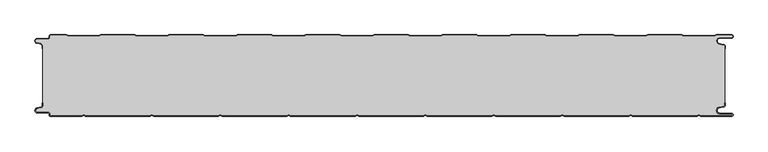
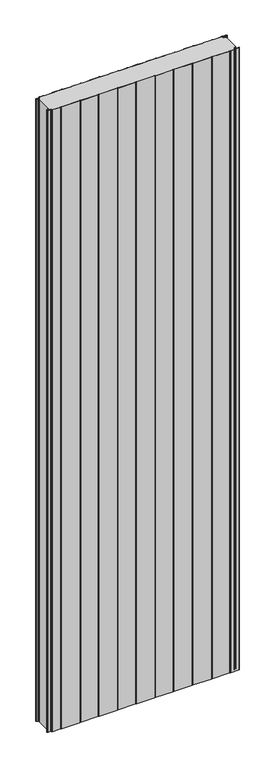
"""IFC4 building model written with IfcOpenShell, lengths in millimetres: plate geometry, PMH_Curtain-Panel_Perfil-Estándar : ACH_PMH_Panel-Acústico-Sectorización_120M."""

from ifc_helpers import new_model, si_unit, point, frame_2d, origin, origin_with_axes, place, context, project, spatial, polyline, circle_curve, trimmed, segment, composite_curve, outline, extrude, source, transform, mapped, element, save


def plate_caacb22a(model_context):
    return source(origin(), model_context, "Body", "SweptSolid", [
        extrude(outline(composite_curve([segment(polyline([(-500.0, 15.878557), (-500.0, 20.0), (-499.2, 20.0), (-499.2, 15.878557)]), True, "CONTINUOUS"), segment(trimmed(circle_curve(frame_2d((-502.0, 15.878557)), 2.8), [point((-499.2, 15.878557))], [point((-501.370137, 13.1503208))], False, "CARTESIAN"), True, "CONTINUOUS"), segment(polyline([(-501.370137, 13.1503208), (-507.529863, 11.728236)]), True, "CONTINUOUS"), segment(trimmed(circle_curve(frame_2d((-506.9, 9.0)), 2.8), [point((-507.529863, 11.728236))], [point((-506.9, 6.2))], True, "CARTESIAN"), True, "CONTINUOUS"), segment(polyline([(-506.9, 6.2), (-491.4, 6.2)]), True, "CONTINUOUS"), segment(trimmed(circle_curve(frame_2d((-491.4, 3.4)), 2.8), [point((-491.4, 6.2))], [point((-488.6, 3.4))], False, "CARTESIAN"), True, "CONTINUOUS"), segment(polyline([(-488.6, 3.4), (-488.6, 2.0)]), True, "CONTINUOUS"), segment(trimmed(circle_curve(frame_2d((-487.4, 2.0)), 1.2), [point((-488.6, 2.0))], [point((-487.4, 0.8))], True, "CARTESIAN"), True, "CONTINUOUS"), segment(polyline([(-487.4, 0.8), (-442.3143588, 0.8), (-439.4, 2.482606), (-436.4856412, 0.8), (-342.3143588, 0.8), (-339.4, 2.482606), (-336.4856412, 0.8), (-242.3143588, 0.8), (-239.4, 2.482606), (-236.4856412, 0.8), (-142.3143588, 0.8), (-139.4, 2.482606), (-136.4856412, 0.8), (-42.3143588, 0.8), (-39.4, 2.482606), (-36.4856412, 0.8), (57.6856412, 0.8), (60.6, 2.482606), (63.5143588, 0.8), (157.6856412, 0.8), (160.6, 2.482606), (163.5143588, 0.8), (257.6856412, 0.8), (260.6, 2.482606), (263.5143588, 0.8), (357.6856412, 0.8), (360.6, 2.482606), (363.5143588, 0.8), (457.6856412, 0.8), (460.6, 2.482606), (463.5143588, 0.8), (508.1, 0.8)]), True, "CONTINUOUS"), segment(trimmed(circle_curve(frame_2d((508.1, 2.5)), 1.7), [point((508.1, 0.8))], [point((508.1, 4.2))], True, "CARTESIAN"), True, "CONTINUOUS"), segment(polyline([(508.1, 4.2), (491.1, 4.2)]), True, "CONTINUOUS"), segment(trimmed(circle_curve(frame_2d((491.1, 9.0)), 4.8), [point((491.1, 4.2))], [point((490.2664884, 13.7270771))], False, "CARTESIAN"), True, "CONTINUOUS"), segment(polyline([(490.2664884, 13.7270771), (496.7125669, 14.8636953)]), True, "CONTINUOUS"), segment(trimmed(circle_curve(frame_2d((496.4, 16.6363492)), 1.8), [point((496.7125669, 14.8636953))], [point((498.2, 16.6363492))], True, "CARTESIAN"), True, "CONTINUOUS"), segment(polyline([(498.2, 16.6363492), (498.2, 20.0), (499.0, 20.0), (499.0, 16.6363492)]), True, "CONTINUOUS"), segment(trimmed(circle_curve(frame_2d((496.4, 16.6363492)), 2.6), [point((499.0, 16.6363492))], [point((496.8514855, 14.0758491))], False, "CARTESIAN"), True, "CONTINUOUS"), segment(polyline([(496.8514855, 14.0758491), (490.405407, 12.939231)]), True, "CONTINUOUS"), segment(trimmed(circle_curve(frame_2d((491.1, 9.0)), 4.0), [point((490.405407, 12.939231))], [point((491.1, 5.0))], True, "CARTESIAN"), True, "CONTINUOUS"), segment(polyline([(491.1, 5.0), (508.1, 5.0)]), True, "CONTINUOUS"), segment(trimmed(circle_curve(frame_2d((508.1, 2.5)), 2.5), [point((508.1, 5.0))], [point((508.1, 0.0))], False, "CARTESIAN"), True, "CONTINUOUS"), segment(polyline([(508.1, 0.0), (463.2999995, 0.0), (460.6, 1.5588455), (457.9000005, 0.0), (363.2999995, 0.0), (360.6, 1.5588455), (357.9000005, 0.0), (263.2999995, 0.0), (260.6, 1.5588455), (257.9000005, 0.0), (163.2999995, 0.0), (160.6, 1.5588455), (157.9000005, 0.0), (63.2999995, 0.0), (60.6, 1.5588455), (57.9000005, 0.0), (-36.7000005, 0.0), (-39.4, 1.5588455), (-42.0999995, 0.0), (-136.7000005, 0.0), (-139.4, 1.5588455), (-142.0999995, 0.0), (-236.7000005, 0.0), (-239.4, 1.5588455), (-242.0999995, 0.0), (-336.7000005, 0.0), (-339.4, 1.5588455), (-342.0999995, 0.0), (-436.7000005, 0.0), (-439.4, 1.5588455), (-442.0999995, 0.0), (-487.4, 0.0)]), True, "CONTINUOUS"), segment(trimmed(circle_curve(frame_2d((-487.4, 2.0)), 2.0), [point((-487.4, 0.0))], [point((-489.4, 2.0))], False, "CARTESIAN"), True, "CONTINUOUS"), segment(polyline([(-489.4, 2.0), (-489.4, 3.4)]), True, "CONTINUOUS"), segment(trimmed(circle_curve(frame_2d((-491.4, 3.4)), 2.0), [point((-489.4, 3.4))], [point((-491.4, 5.4))], True, "CARTESIAN"), True, "CONTINUOUS"), segment(polyline([(-491.4, 5.4), (-506.9, 5.4)]), True, "CONTINUOUS"), segment(trimmed(circle_curve(frame_2d((-506.9, 9.0)), 3.6), [point((-506.9, 5.4))], [point((-507.7098239, 12.5077322))], False, "CARTESIAN"), True, "CONTINUOUS"), segment(polyline([(-507.7098239, 12.5077322), (-501.5500979, 13.929817)]), True, "CONTINUOUS"), segment(trimmed(circle_curve(frame_2d((-502.0, 15.878557)), 2.0), [point((-501.5500979, 13.929817))], [point((-500.0, 15.878557))], True, "CARTESIAN"), True, "CONTINUOUS")], self_intersect=False)), origin_with_axes(), (0.0, 0.0, 1.0), 3500.0),
        extrude(outline(composite_curve([segment(trimmed(circle_curve(frame_2d((-502.0, 104.121443)), 2.8), [point((-499.2, 104.121443))], [point((-501.370137, 106.8496792))], True, "CARTESIAN"), True, "CONTINUOUS"), segment(polyline([(-501.370137, 106.8496792), (-507.529863, 108.271764)]), True, "CONTINUOUS"), segment(trimmed(circle_curve(frame_2d((-506.9, 111.0)), 2.7999998), [point((-507.529863, 108.271764))], [point((-506.9, 113.7999998))], False, "CARTESIAN"), True, "CONTINUOUS"), segment(polyline([(-506.9, 113.7999998), (-491.4, 113.7999998)]), True, "CONTINUOUS"), segment(trimmed(circle_curve(frame_2d((-491.4, 116.5999998)), 2.8), [point((-491.4, 113.7999998))], [point((-488.6, 116.5999998))], True, "CARTESIAN"), True, "CONTINUOUS"), segment(polyline([(-488.6, 116.5999998), (-488.6, 118.0)]), True, "CONTINUOUS"), segment(trimmed(circle_curve(frame_2d((-487.4, 118.0)), 1.2), [point((-488.6, 118.0))], [point((-487.4, 119.2))], False, "CARTESIAN"), True, "CONTINUOUS"), segment(polyline([(-487.4, 119.2), (-464.6143592, 119.2), (-462.0162816, 117.7), (-416.7875654, 117.7), (-414.1894878, 119.2), (-364.6143592, 119.2), (-362.0162816, 117.7), (-316.7875654, 117.7), (-314.1894878, 119.2), (-264.6143592, 119.2), (-262.0162816, 117.7), (-216.7875654, 117.7), (-214.1894878, 119.2), (-164.6143592, 119.2), (-162.0162816, 117.7), (-116.7875654, 117.7), (-114.1894878, 119.2), (-64.6143592, 119.2), (-62.0162816, 117.7), (-16.7875654, 117.7), (-14.1894878, 119.2), (35.3856408, 119.2), (37.9837184, 117.7), (83.2124346, 117.7), (85.8105122, 119.2), (135.3856408, 119.2), (137.9837184, 117.7), (183.2124346, 117.7), (185.8105122, 119.2), (235.3856408, 119.2), (237.9837184, 117.7), (283.2124346, 117.7), (285.8105122, 119.2), (335.3856408, 119.2), (337.9837184, 117.7), (383.2124346, 117.7), (385.8105122, 119.2), (435.3856408, 119.2), (437.9837184, 117.7), (483.2124346, 117.7), (485.8105122, 119.2), (508.1, 119.2)]), True, "CONTINUOUS"), segment(trimmed(circle_curve(frame_2d((508.1, 117.5)), 1.7), [point((508.1, 119.2))], [point((508.1, 115.8000001))], False, "CARTESIAN"), True, "CONTINUOUS"), segment(polyline([(508.1, 115.8000001), (491.1, 115.8000001)]), True, "CONTINUOUS"), segment(trimmed(circle_curve(frame_2d((491.1, 111.0000002)), 4.7999999), [point((491.1, 115.8000001))], [point((490.266489, 106.272923))], True, "CARTESIAN"), True, "CONTINUOUS"), segment(polyline([(490.266489, 106.272923), (496.7125666, 105.1363059)]), True, "CONTINUOUS"), segment(trimmed(circle_curve(frame_2d((496.4, 103.363652)), 1.8), [point((496.7125666, 105.1363059))], [point((498.2, 103.363652))], False, "CARTESIAN"), True, "CONTINUOUS"), segment(polyline([(498.2, 103.363652), (498.2, 16.6363492)]), True, "CONTINUOUS"), segment(trimmed(circle_curve(frame_2d((496.4, 16.6363492)), 1.8), [point((498.2, 16.6363492))], [point((496.7125668, 14.8636953))], False, "CARTESIAN"), True, "CONTINUOUS"), segment(polyline([(496.7125668, 14.8636953), (490.2664883, 13.7270771)]), True, "CONTINUOUS"), segment(trimmed(circle_curve(frame_2d((491.1, 9.0)), 4.8), [point((490.2664883, 13.7270771))], [point((491.1, 4.2))], True, "CARTESIAN"), True, "CONTINUOUS"), segment(polyline([(491.1, 4.2), (508.1, 4.2)]), True, "CONTINUOUS"), segment(trimmed(circle_curve(frame_2d((508.1, 2.5)), 1.7), [point((508.1, 4.2))], [point((508.1, 0.8))], False, "CARTESIAN"), True, "CONTINUOUS"), segment(polyline([(508.1, 0.8), (463.5143587, 0.8), (460.5999999, 2.482606), (457.6856411, 0.8), (363.5143588, 0.8), (360.5999999, 2.482606), (357.6856411, 0.8), (263.5143588, 0.8), (260.5999999, 2.482606), (257.6856411, 0.8), (163.5143588, 0.8), (160.5999999, 2.482606), (157.6856411, 0.8), (63.5143588, 0.8), (60.5999999, 2.482606), (57.6856411, 0.8), (-36.4856412, 0.8), (-39.4000001, 2.482606), (-42.3143589, 0.8), (-136.4856412, 0.8), (-139.4000001, 2.482606), (-142.3143589, 0.8), (-236.4856412, 0.8), (-239.4000001, 2.482606), (-242.3143589, 0.8), (-336.4856412, 0.8), (-339.4000001, 2.482606), (-342.3143589, 0.8), (-436.4856412, 0.8), (-439.4000001, 2.482606), (-442.3143589, 0.8), (-487.4000001, 0.8)]), True, "CONTINUOUS"), segment(trimmed(circle_curve(frame_2d((-487.4000001, 2.0)), 1.2), [point((-487.4000001, 0.8))], [point((-488.6000001, 2.0))], False, "CARTESIAN"), True, "CONTINUOUS"), segment(polyline([(-488.6000001, 2.0), (-488.6000001, 3.4)]), True, "CONTINUOUS"), segment(trimmed(circle_curve(frame_2d((-491.4000001, 3.4)), 2.8), [point((-488.6000001, 3.4))], [point((-491.4000001, 6.2))], True, "CARTESIAN"), True, "CONTINUOUS"), segment(polyline([(-491.4000001, 6.2), (-506.9, 6.2)]), True, "CONTINUOUS"), segment(trimmed(circle_curve(frame_2d((-506.9, 9.0)), 2.8), [point((-506.9, 6.2))], [point((-507.5298631, 11.7282362))], False, "CARTESIAN"), True, "CONTINUOUS"), segment(polyline([(-507.5298631, 11.7282362), (-501.370137, 13.1503212)]), True, "CONTINUOUS"), segment(trimmed(circle_curve(frame_2d((-502.0, 15.8785573)), 2.8), [point((-501.370137, 13.1503212))], [point((-499.2, 15.8785573))], True, "CARTESIAN"), True, "CONTINUOUS"), segment(polyline([(-499.2, 15.8785573), (-499.2, 104.121443)]), True, "CONTINUOUS")], self_intersect=False)), origin_with_axes(), (0.0, 0.0, 1.0), 3500.0),
        extrude(outline(composite_curve([segment(polyline([(-487.4, 120.0), (-464.3999999, 120.0), (-461.8019223, 118.5), (-417.0019247, 118.5), (-414.4038471, 120.0), (-364.3999999, 120.0), (-361.8019223, 118.5), (-317.0019247, 118.5), (-314.4038471, 120.0), (-264.3999999, 120.0), (-261.8019223, 118.5), (-217.0019247, 118.5), (-214.4038471, 120.0), (-164.3999999, 120.0), (-161.8019223, 118.5), (-117.0019247, 118.5), (-114.4038471, 120.0), (-64.3999999, 120.0), (-61.8019223, 118.5), (-17.0019247, 118.5), (-14.4038471, 120.0), (35.6000001, 120.0), (38.1980777, 118.5), (82.9980753, 118.5), (85.5961529, 120.0), (135.6000001, 120.0), (138.1980777, 118.5), (182.9980753, 118.5), (185.5961529, 120.0), (235.6000001, 120.0), (238.1980777, 118.5), (282.9980753, 118.5), (285.5961529, 120.0), (335.6000001, 120.0), (338.1980777, 118.5), (382.9980753, 118.5), (385.5961529, 120.0), (435.6000001, 120.0), (438.1980777, 118.5), (482.9980753, 118.5), (485.5961529, 120.0), (508.1, 120.0)]), True, "CONTINUOUS"), segment(trimmed(circle_curve(frame_2d((508.1, 117.5)), 2.5), [point((508.1, 120.0))], [point((508.1, 115.0))], False, "CARTESIAN"), True, "CONTINUOUS"), segment(polyline([(508.1, 115.0), (491.1, 115.0)]), True, "CONTINUOUS"), segment(trimmed(circle_curve(frame_2d((491.1, 111.0)), 4.0), [point((491.1, 115.0))], [point((490.4054075, 107.060769))], True, "CARTESIAN"), True, "CONTINUOUS"), segment(polyline([(490.4054075, 107.060769), (496.8514851, 105.924152)]), True, "CONTINUOUS"), segment(trimmed(circle_curve(frame_2d((496.4, 103.363652)), 2.6), [point((496.8514851, 105.924152))], [point((499.0, 103.363652))], False, "CARTESIAN"), True, "CONTINUOUS"), segment(polyline([(499.0, 103.363652), (499.0, 100.0), (498.2, 100.0), (498.2, 103.363652)]), True, "CONTINUOUS"), segment(trimmed(circle_curve(frame_2d((496.4, 103.363652)), 1.8), [point((498.2, 103.363652))], [point((496.7125666, 105.136306))], True, "CARTESIAN"), True, "CONTINUOUS"), segment(polyline([(496.7125666, 105.136306), (490.266489, 106.2729229)]), True, "CONTINUOUS"), segment(trimmed(circle_curve(frame_2d((491.1, 111.0)), 4.8), [point((490.266489, 106.2729229))], [point((491.1, 115.8))], False, "CARTESIAN"), True, "CONTINUOUS"), segment(polyline([(491.1, 115.8), (508.1, 115.8)]), True, "CONTINUOUS"), segment(trimmed(circle_curve(frame_2d((508.1, 117.5)), 1.7), [point((508.1, 115.8))], [point((508.1, 119.2))], True, "CARTESIAN"), True, "CONTINUOUS"), segment(polyline([(508.1, 119.2), (485.8105122, 119.2), (483.2124346, 117.7), (437.9837184, 117.7), (435.3856408, 119.2), (385.8105122, 119.2), (383.2124346, 117.7), (337.9837184, 117.7), (335.3856408, 119.2), (285.8105122, 119.2), (283.2124346, 117.7), (237.9837184, 117.7), (235.3856408, 119.2), (185.8105122, 119.2), (183.2124346, 117.7), (137.9837184, 117.7), (135.3856408, 119.2), (85.8105122, 119.2), (83.2124346, 117.7), (37.9837184, 117.7), (35.3856408, 119.2), (-14.1894878, 119.2), (-16.7875654, 117.7), (-62.0162816, 117.7), (-64.6143592, 119.2), (-114.1894878, 119.2), (-116.7875654, 117.7), (-162.0162816, 117.7), (-164.6143592, 119.2), (-214.1894878, 119.2), (-216.7875654, 117.7), (-262.0162816, 117.7), (-264.6143592, 119.2), (-314.1894878, 119.2), (-316.7875654, 117.7), (-362.0162816, 117.7), (-364.6143592, 119.2), (-414.1894878, 119.2), (-416.7875654, 117.7), (-462.0162816, 117.7), (-464.6143592, 119.2), (-487.4, 119.2)]), True, "CONTINUOUS"), segment(trimmed(circle_curve(frame_2d((-487.4, 118.0)), 1.2), [point((-487.4, 119.2))], [point((-488.6, 118.0))], True, "CARTESIAN"), True, "CONTINUOUS"), segment(polyline([(-488.6, 118.0), (-488.6, 116.6)]), True, "CONTINUOUS"), segment(trimmed(circle_curve(frame_2d((-491.4, 116.6)), 2.8), [point((-488.6, 116.6))], [point((-491.4, 113.8))], False, "CARTESIAN"), True, "CONTINUOUS"), segment(polyline([(-491.4, 113.8), (-506.9, 113.8)]), True, "CONTINUOUS"), segment(trimmed(circle_curve(frame_2d((-506.9, 111.0)), 2.8), [point((-506.9, 113.8))], [point((-507.529863, 108.2717638))], True, "CARTESIAN"), True, "CONTINUOUS"), segment(polyline([(-507.529863, 108.2717638), (-501.370137, 106.849679)]), True, "CONTINUOUS"), segment(trimmed(circle_curve(frame_2d((-502.0, 104.121443)), 2.8), [point((-501.370137, 106.849679))], [point((-499.2, 104.121443))], False, "CARTESIAN"), True, "CONTINUOUS"), segment(polyline([(-499.2, 104.121443), (-499.2, 100.0), (-500.0, 100.0), (-500.0, 104.121443)]), True, "CONTINUOUS"), segment(trimmed(circle_curve(frame_2d((-502.0, 104.121443)), 2.0), [point((-500.0, 104.121443))], [point((-501.5500978, 106.0701831))], True, "CARTESIAN"), True, "CONTINUOUS"), segment(polyline([(-501.5500978, 106.0701831), (-507.7098239, 107.492268)]), True, "CONTINUOUS"), segment(trimmed(circle_curve(frame_2d((-506.9, 111.0)), 3.6), [point((-507.7098239, 107.492268))], [point((-506.9, 114.6))], False, "CARTESIAN"), True, "CONTINUOUS"), segment(polyline([(-506.9, 114.6), (-491.4, 114.6)]), True, "CONTINUOUS"), segment(trimmed(circle_curve(frame_2d((-491.4, 116.6)), 2.0), [point((-491.4, 114.6))], [point((-489.4, 116.6))], True, "CARTESIAN"), True, "CONTINUOUS"), segment(polyline([(-489.4, 116.6), (-489.4, 118.0)]), True, "CONTINUOUS"), segment(trimmed(circle_curve(frame_2d((-487.4, 118.0)), 2.0), [point((-489.4, 118.0))], [point((-487.4, 120.0))], False, "CARTESIAN"), True, "CONTINUOUS")], self_intersect=False)), origin_with_axes(), (0.0, 0.0, 1.0), 3500.0),
    ])


if __name__ == "__main__":
    model = new_model("IFC4")
    model_context = context("Model", 3, world=origin())
    ifc_project = project(units=[si_unit("LENGTHUNIT", "METRE", prefix="MILLI")], contexts=[model_context])
    site = spatial("IfcSite", under=ifc_project)
    building = spatial("IfcBuilding", under=site)
    placement = place(None, origin())
    plate_shape = plate_caacb22a(model_context)
    element("IfcPlate", 1, ObjectType="PMH_Curtain-Panel_Perfil-Estándar : ACH_PMH_Panel-Acústico-Sectorización_120M", at=placement, inside=building, context=model_context, shape_type="MappedRepresentation", body=[
        mapped(plate_shape, transform((0.0, 0.0, 0.0), x_axis=(1.0, 0.0, 0.0), y_axis=(0.0, 1.0, 0.0), z_axis=(0.0, 0.0, 1.0))),
    ])
    save(model, "model.ifc")
